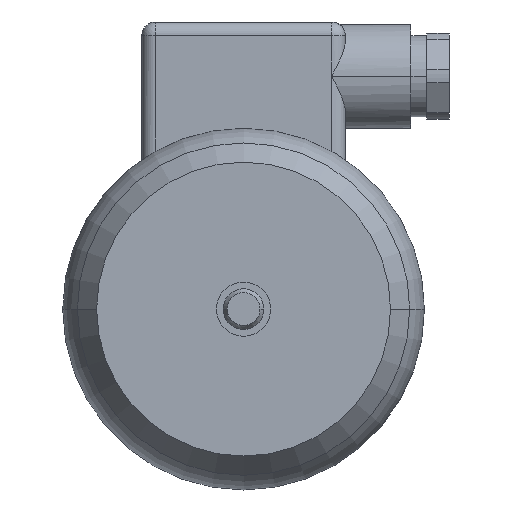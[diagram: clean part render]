
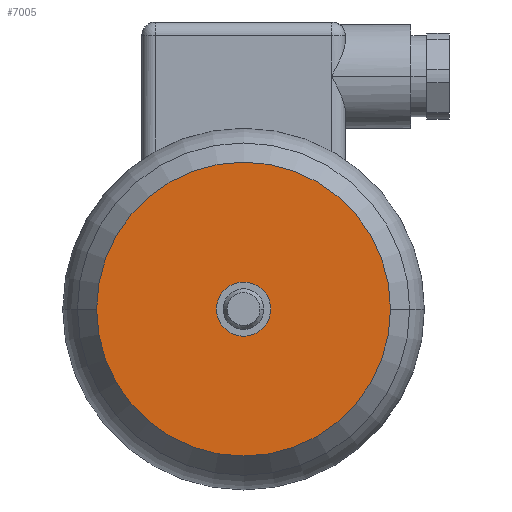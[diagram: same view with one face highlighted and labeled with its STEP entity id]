
A CAD part, left-side view. The second image highlights one B-rep face of the part: STEP entity #7005.
In plain terms, the highlighted planar face has unit normal (-1, 0, 0).
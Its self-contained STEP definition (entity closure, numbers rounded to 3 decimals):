
#1936=CARTESIAN_POINT('',(-170.,0.,0.));
#1937=DIRECTION('',(-1.,0.,0.));
#1938=DIRECTION('',(0.,1.,0.));
#1939=AXIS2_PLACEMENT_3D('',#1936,#1937,#1938);
#1941=CARTESIAN_POINT('',(-170.,0.,0.));
#1942=DIRECTION('',(1.,0.,0.));
#1943=DIRECTION('',(0.,1.,0.));
#1944=AXIS2_PLACEMENT_3D('',#1941,#1942,#1943);
#1946=CARTESIAN_POINT('',(-170.,0.,0.));
#1947=DIRECTION('',(1.,0.,0.));
#1948=DIRECTION('',(0.,1.,0.));
#1949=AXIS2_PLACEMENT_3D('',#1946,#1947,#1948);
#1959=CARTESIAN_POINT('',(-170.,0.,0.));
#1960=DIRECTION('',(-1.,0.,0.));
#1961=DIRECTION('',(0.,1.,0.));
#1962=AXIS2_PLACEMENT_3D('',#1959,#1960,#1961);
#3949=CARTESIAN_POINT('',(-170.,32.5,0.));
#3950=VERTEX_POINT('',#3949);
#3951=CARTESIAN_POINT('',(-170.,6.,0.));
#3953=VERTEX_POINT('',#3951);
#3977=CARTESIAN_POINT('',(-170.,-32.5,0.));
#3978=VERTEX_POINT('',#3977);
#3979=CARTESIAN_POINT('',(-170.,-6.,0.));
#3981=VERTEX_POINT('',#3979);
#6990=CARTESIAN_POINT('',(-170.,0.,0.));
#6991=DIRECTION('',(1.,0.,0.));
#6992=DIRECTION('',(0.,-1.,0.));
#6993=AXIS2_PLACEMENT_3D('',#6990,#6991,#6992);
#6994=PLANE('',#6993);
#6995=ORIENTED_EDGE('',*,*,#6983,.F.);
#6996=ORIENTED_EDGE('',*,*,#6972,.T.);
#6997=EDGE_LOOP('',(#6995,#6996));
#6998=FACE_OUTER_BOUND('',#6997,.F.);
#7000=ORIENTED_EDGE('',*,*,#6999,.F.);
#7002=ORIENTED_EDGE('',*,*,#7001,.T.);
#7003=EDGE_LOOP('',(#7000,#7002));
#7004=FACE_BOUND('',#7003,.F.);
#7005=ADVANCED_FACE('',(#6998,#7004),#6994,.F.);
#1940=CIRCLE('',#1939,32.5);
#1945=CIRCLE('',#1944,32.5);
#1950=CIRCLE('',#1949,6.);
#1963=CIRCLE('',#1962,6.);
#6972=EDGE_CURVE('',#3950,#3978,#1945,.T.);
#6983=EDGE_CURVE('',#3950,#3978,#1940,.T.);
#6999=EDGE_CURVE('',#3953,#3981,#1950,.T.);
#7001=EDGE_CURVE('',#3953,#3981,#1963,.T.);
